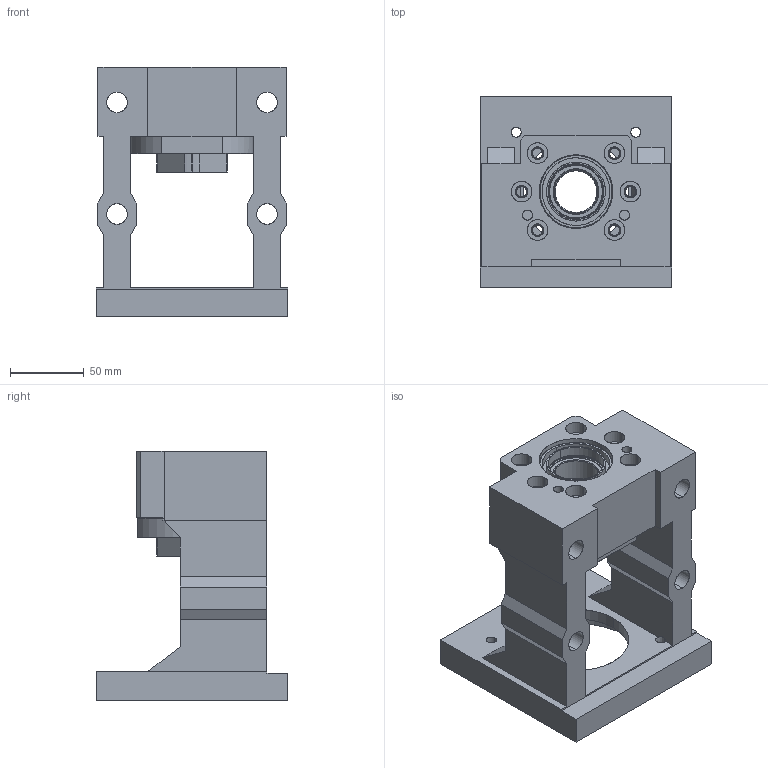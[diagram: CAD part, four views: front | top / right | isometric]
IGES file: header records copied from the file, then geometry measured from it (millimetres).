
Start section: SolidWorks IGES file using analytic representation for surfaces
Global section: file name: C:\Users\117\Desktop\MBC30-Y.IGS; native system: SolidWorks 2018; preprocessor: SolidWorks 2018; author: 117; date: 211028.153554; units: millimetre
Bounding box: 130 x 130 x 170 mm (x, y, z)
Surface area: 152237.9 mm2 (no closed solid volume)
Topology: 0 solids, 0 shells, 254 faces, 4680 edges, 4640 vertices
Faces by surface type: revolution 143, bspline 111
